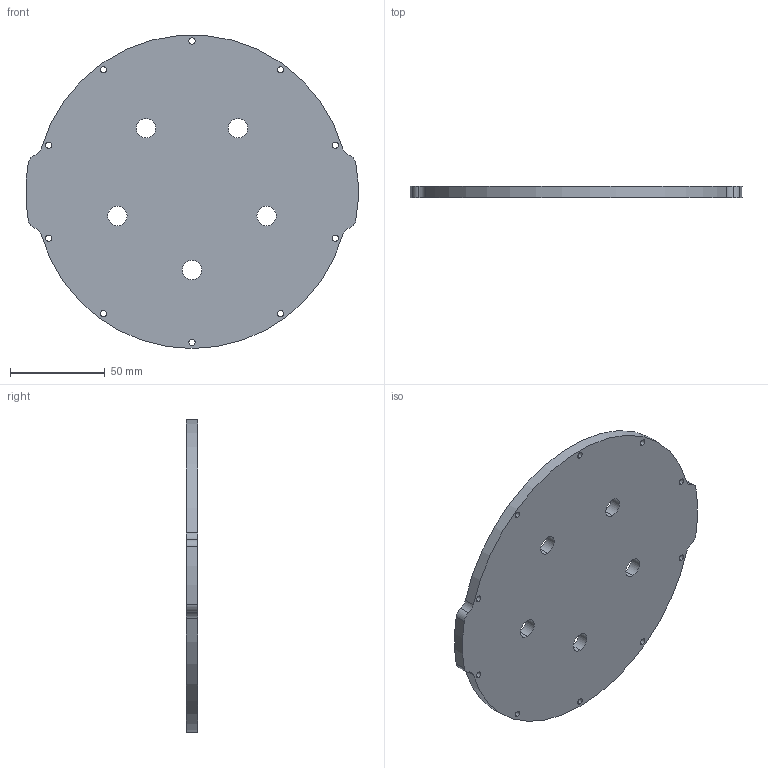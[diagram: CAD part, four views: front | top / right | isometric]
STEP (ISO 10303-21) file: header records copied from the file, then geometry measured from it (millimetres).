
FILE_DESCRIPTION (( 'STEP AP203' ), '1' );
FILE_NAME ('WTE6-M-END-CAP-5-10MMX1A.STEP', '2017-01-11T22:15:37', ( '' ), ( '' ), 'SwSTEP 2.0', 'SolidWorks 2014', '' );
FILE_SCHEMA (( 'CONFIG_CONTROL_DESIGN' ));
Length unit declared in the file: millimetre
Products named in the file (1): WTE6-M-END-CAP-5-10MMX1A
Bounding box: 174.8 x 6 x 164.79 mm (x, y, z)
Volume: 127787.1 mm3; surface area: 47361.7 mm2
Topology: 1 solids, 1 shells, 45 faces, 129 edges, 86 vertices
Faces by surface type: cylinder 43, plane 2
Entity records: 1666 total; most frequent: DIRECTION 307, CARTESIAN_POINT 261, ORIENTED_EDGE 258, AXIS2_PLACEMENT_3D 132, EDGE_CURVE 129, VERTEX_POINT 86, CIRCLE 86, EDGE_LOOP 75
